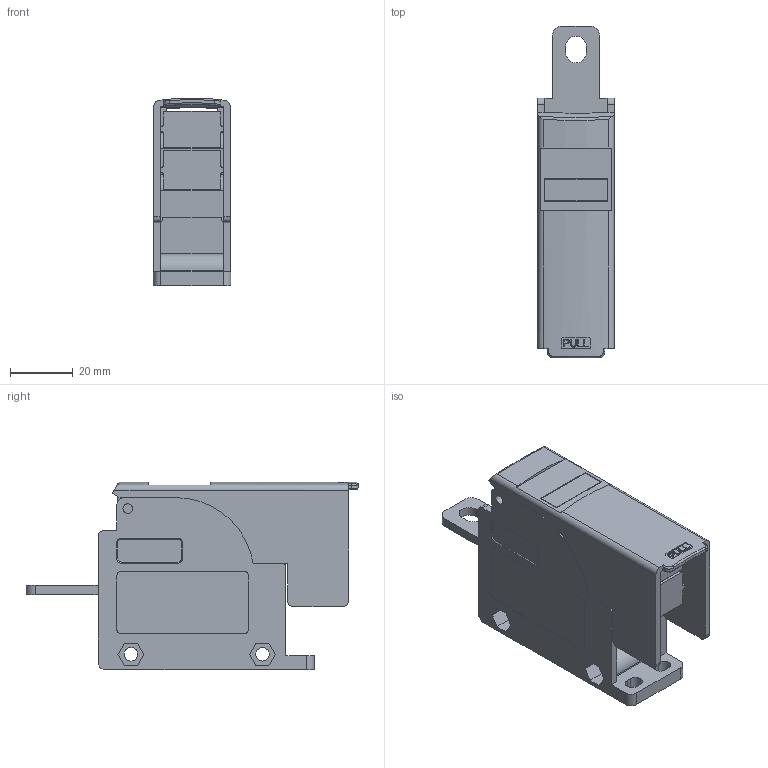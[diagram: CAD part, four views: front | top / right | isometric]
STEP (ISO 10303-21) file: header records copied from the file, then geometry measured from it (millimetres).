
FILE_DESCRIPTION(/* description */ (''),/* implementation_level */ '2;1');
FILE_NAME(/* name */ 'SPD25-S.stp',/* time_stamp */ '2019-11-04T11:38:48+09:00',/* author */ (''),/* organization */ (''),/* preprocessor_version */ 'ST-DEVELOPER v16.7',/* originating_system */ 'SIEMENS PLM Software NX 12.0',/* authorisation */ '');
FILE_SCHEMA (('AP203_CONFIGURATION_CONTROLLED_3D_DESIGN_OF_MECHANICAL_PARTS_AND_ASSEMBLIES_MIM_LF { 1 0 10303 403 2 1 2}'));
Length unit declared in the file: millimetre
Products named in the file (1): kimE9E090E5f7qv
Bounding box: 24.8 x 106 x 59.99 mm (x, y, z)
Volume: 61516.8 mm3; surface area: 25105 mm2
Topology: 1 solids, 1 shells, 283 faces, 799 edges, 528 vertices
Faces by surface type: plane 190, cylinder 74, cone 6, extrusion 6, bspline 5, torus 2
Full cylindrical faces by diameter (mm): 3.1 x2, 4.3 x2
Entity records: 9753 total; most frequent: CARTESIAN_POINT 2251, ORIENTED_EDGE 1582, DIRECTION 1476, EDGE_CURVE 791, VECTOR 586, LINE 580, VERTEX_POINT 524, AXIS2_PLACEMENT_3D 445
